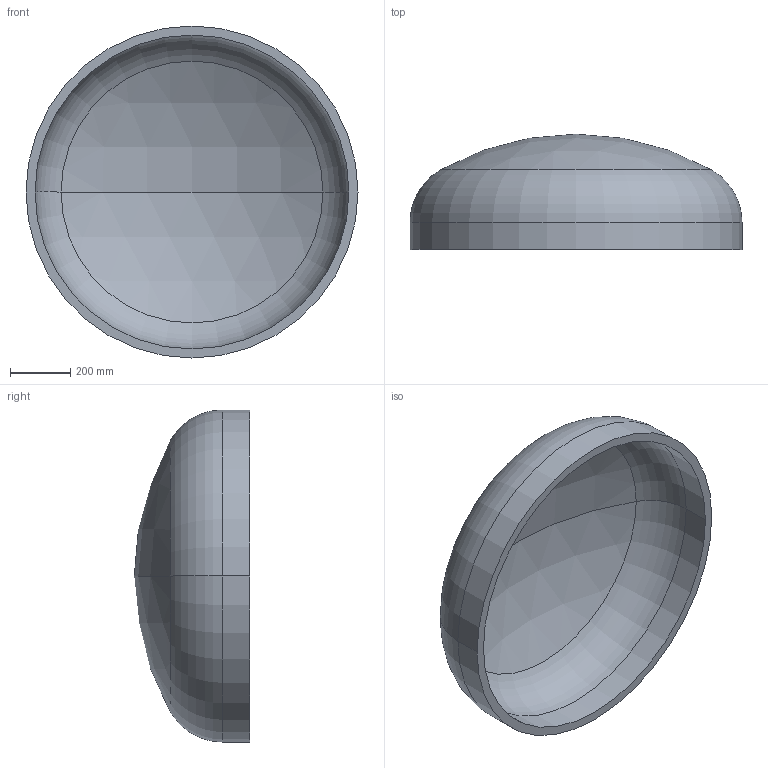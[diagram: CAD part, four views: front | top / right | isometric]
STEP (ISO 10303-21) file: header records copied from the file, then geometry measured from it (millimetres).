
FILE_DESCRIPTION (( 'STEP AP203' ), '1' );
FILE_NAME ('DIN 28013 Korbbogenform_-_Boden DIN 28013 - 1100 x 90 - I - s=30.step', '2016-07-01T09:05:16', ( '' ), ( '' ), 'SwSTEP 2.0', 'SolidWorks 2013', '' );
FILE_SCHEMA (( 'CONFIG_CONTROL_DESIGN' ));
Length unit declared in the file: millimetre
Products named in the file (1): DIN 28013 Korbbogenform_-_Boden DIN 28013 - 1100 x 90 - I - s=30
Bounding box: 1100 x 382.26 x 1100 mm (x, y, z)
Volume: 47203890.8 mm3; surface area: 3249655.2 mm2
Topology: 1 solids, 1 shells, 13 faces, 24 edges, 14 vertices
Faces by surface type: torus 4, cylinder 4, sphere 4, plane 1
Entity records: 407 total; most frequent: DIRECTION 72, CARTESIAN_POINT 52, ORIENTED_EDGE 48, AXIS2_PLACEMENT_3D 34, EDGE_CURVE 24, CIRCLE 20, VERTEX_POINT 14, EDGE_LOOP 14
